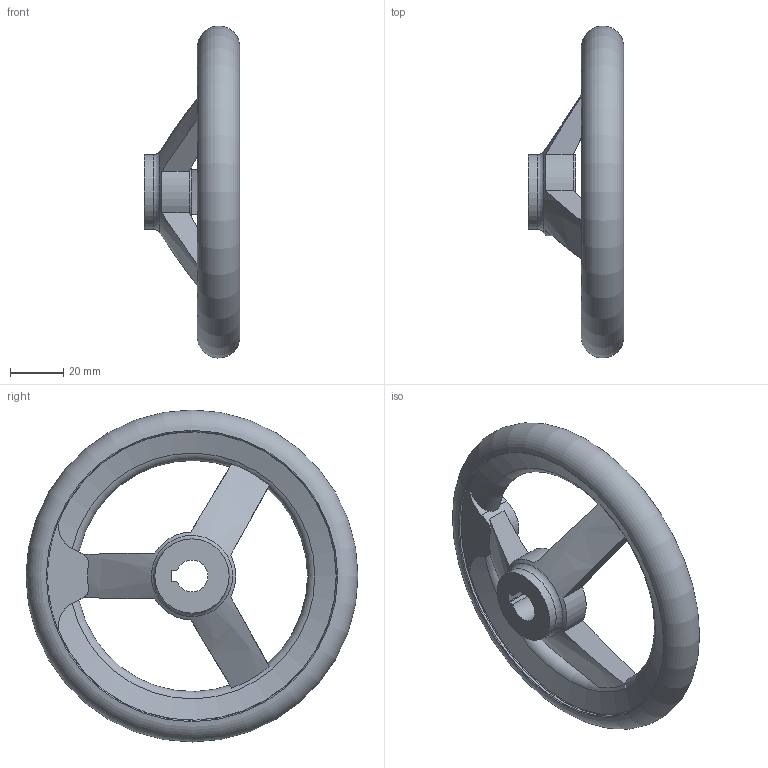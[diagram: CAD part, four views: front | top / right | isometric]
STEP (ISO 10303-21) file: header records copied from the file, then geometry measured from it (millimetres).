
FILE_DESCRIPTION( ( 'STEP AP203' ), '1' );
FILE_NAME( 'C:/Temp/Ganter_Step_05_03_2020/data/1_3/din_950/din_950_k/din_950_k_a/Handwheel DIN 950-GG-125-K12-A.stp', '2020-03-05T10:30:31', ( 'License CC BY-ND 4.0' ), ( 'CADENAS' ), ' ', 'PARTsolutions', ' ' );
FILE_SCHEMA( ( 'CONFIG_CONTROL_DESIGN' ) );
Length unit declared in the file: millimetre
Products named in the file (1): _Handwheel DIN 950-GG-125-K12-A
Bounding box: 36 x 124.99 x 124.99 mm (x, y, z)
Volume: 93384.6 mm3; surface area: 26723.8 mm2
Topology: 1 solids, 1 shells, 42 faces, 122 edges, 78 vertices
Faces by surface type: cylinder 15, plane 13, torus 10, cone 4
Full cylindrical faces by diameter (mm): 28 x2, 109 x2
Entity records: 1650 total; most frequent: CARTESIAN_POINT 594, ORIENTED_EDGE 210, DIRECTION 198, EDGE_CURVE 105, AXIS2_PLACEMENT_3D 87, VERTEX_POINT 75, EDGE_LOOP 59, FACE_OUTER_BOUND 53
